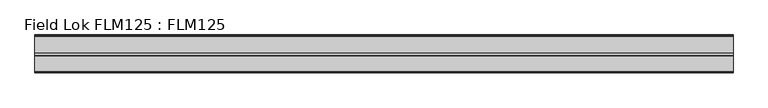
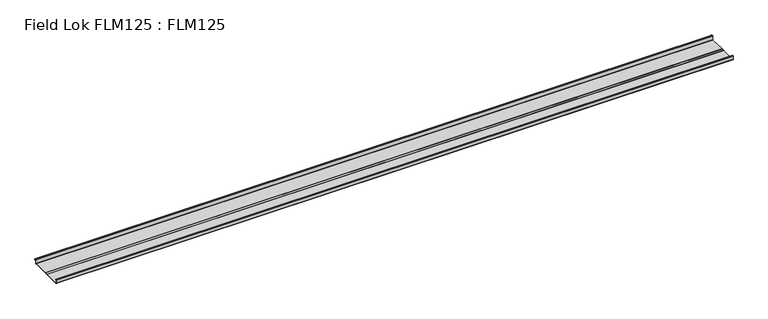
"""IFC4 building model written with IfcOpenShell, lengths in millimetres: proxy geometry, Field Lok FLM125 : FLM125."""

from ifc_helpers import new_model, si_unit, point, frame, frame_2d, origin, place, context, project, spatial, polyline, circle_curve, trimmed, segment, composite_curve, outline, extrude, source, transform, mapped, element, save


def field_lok_flm125_flm125_7b849c24(model_context):
    return source(origin(), model_context, "Body", "SweptSolid", [
        extrude(outline(composite_curve([segment(polyline([(9.0644354, 38.2966038), (9.0644354, 37.4838038), (2.7557104, 37.4838038)]), True, "CONTINUOUS"), segment(trimmed(circle_curve(frame_2d((2.7557104, 35.4772038)), 2.0066), [point((2.7557104, 37.4838038))], [point((0.7491104, 35.4772038))], True, "CARTESIAN"), True, "CONTINUOUS"), segment(polyline([(0.7491104, 35.4772038), (0.7491104, 5.7846038)]), True, "CONTINUOUS"), segment(trimmed(circle_curve(frame_2d((5.5243104, 5.7846038)), 4.7752), [point((0.7491104, 5.7846038))], [point((5.5243104, 1.0094038))], True, "CARTESIAN"), True, "CONTINUOUS"), segment(polyline([(5.5243104, 1.0094038), (146.5691576, 1.0094038), (147.6574599, 1.7714412)]), True, "CONTINUOUS"), segment(trimmed(circle_curve(frame_2d((148.4004708, 0.7103117)), 1.2954), [point((147.6574599, 1.7714412))], [point((148.4004708, 2.0057117))], False, "CARTESIAN"), True, "CONTINUOUS"), segment(polyline([(148.4004708, 2.0057117), (170.7524708, 2.0057117)]), True, "CONTINUOUS"), segment(trimmed(circle_curve(frame_2d((170.7524708, 0.7103117)), 1.2954), [point((170.7524708, 2.0057117))], [point((171.4954817, 1.7714412))], False, "CARTESIAN"), True, "CONTINUOUS"), segment(polyline([(171.4954817, 1.7714412), (172.583784, 1.0094038), (313.6286313, 1.0094038)]), True, "CONTINUOUS"), segment(trimmed(circle_curve(frame_2d((313.6286313, 4.0066038)), 2.9972), [point((313.6286313, 1.0094038))], [point((316.6240055, 3.902003))], True, "CARTESIAN"), True, "CONTINUOUS"), segment(polyline([(316.6240055, 3.902003), (317.7577902, 36.3693494)]), True, "CONTINUOUS"), segment(trimmed(circle_curve(frame_2d((320.5754727, 36.2709538)), 2.8194), [point((317.7577902, 36.3693494))], [point((320.5754727, 39.0903538))], False, "CARTESIAN"), True, "CONTINUOUS"), segment(polyline([(320.5754727, 39.0903538), (328.0352652, 39.0903538)]), True, "CONTINUOUS"), segment(trimmed(circle_curve(frame_2d((328.0352652, 36.2709538)), 2.8194), [point((328.0352652, 39.0903538))], [point((330.8546652, 36.2709538))], False, "CARTESIAN"), True, "CONTINUOUS"), segment(polyline([(330.8546652, 36.2709538), (330.8546652, 29.1684788), (330.0418652, 29.1684788), (330.0418652, 36.2709538)]), True, "CONTINUOUS"), segment(trimmed(circle_curve(frame_2d((328.0352652, 36.2709538)), 2.0066), [point((330.0418652, 36.2709538))], [point((328.0352652, 38.2775538))], True, "CARTESIAN"), True, "CONTINUOUS"), segment(polyline([(328.0352652, 38.2775538), (320.5754727, 38.2775538)]), True, "CONTINUOUS"), segment(trimmed(circle_curve(frame_2d((320.5754727, 36.2709538)), 2.0066), [point((320.5754727, 38.2775538))], [point((318.5700951, 36.3409831))], True, "CARTESIAN"), True, "CONTINUOUS"), segment(polyline([(318.5700951, 36.3409831), (317.4363104, 3.8736367)]), True, "CONTINUOUS"), segment(trimmed(circle_curve(frame_2d((313.6286313, 4.0066038)), 3.81), [point((317.4363104, 3.8736367))], [point((313.6286313, 0.1966038))], False, "CARTESIAN"), True, "CONTINUOUS"), segment(polyline([(313.6286313, 0.1966038), (172.7439558, 0.1966038)]), True, "CONTINUOUS"), segment(trimmed(circle_curve(frame_2d((172.7439558, 1.5174038)), 1.3208), [point((172.7439558, 0.1966038))], [point((171.9863761, 0.4354677))], False, "CARTESIAN"), True, "CONTINUOUS"), segment(polyline([(171.9863761, 0.4354677), (170.904634, 1.1929117), (148.2483076, 1.1929117), (147.1665656, 0.4354677)]), True, "CONTINUOUS"), segment(trimmed(circle_curve(frame_2d((146.4089858, 1.5174038)), 1.3208), [point((147.1665656, 0.4354677))], [point((146.4089858, 0.1966038))], False, "CARTESIAN"), True, "CONTINUOUS"), segment(polyline([(146.4089858, 0.1966038), (5.5243104, 0.1966038)]), True, "CONTINUOUS"), segment(trimmed(circle_curve(frame_2d((5.5243104, 5.7846038)), 5.588), [point((5.5243104, 0.1966038))], [point((-0.0636896, 5.7846038))], False, "CARTESIAN"), True, "CONTINUOUS"), segment(polyline([(-0.0636896, 5.7846038), (-0.0636896, 35.4772038)]), True, "CONTINUOUS"), segment(trimmed(circle_curve(frame_2d((2.7557104, 35.4772038)), 2.8194), [point((-0.0636896, 35.4772038))], [point((2.7557104, 38.2966038))], False, "CARTESIAN"), True, "CONTINUOUS"), segment(polyline([(2.7557104, 38.2966038), (9.0644354, 38.2966038)]), True, "CONTINUOUS")], self_intersect=False)), frame((-3333.5571834, 0.0, 0.0), z_axis=(1.0, 0.0, 0.0), x_axis=(0.0, 1.0, 0.0)), (0.0, 0.0, 1.0), 6096.0),
    ])


if __name__ == "__main__":
    model = new_model("IFC4")
    model_context = context("Model", 3, world=origin())
    ifc_project = project(units=[si_unit("LENGTHUNIT", "METRE", prefix="MILLI")], contexts=[model_context])
    site = spatial("IfcSite", under=ifc_project)
    building = spatial("IfcBuilding", under=site)
    placement = place(None, origin())
    field_lok_flm125_flm125_shape = field_lok_flm125_flm125_7b849c24(model_context)
    element("IfcBuildingElementProxy", 1, Name="Field Lok FLM125 : FLM125", ObjectType="Field Lok FLM125 : FLM125", at=placement, inside=building, context=model_context, shape_type="MappedRepresentation", body=[
        mapped(field_lok_flm125_flm125_shape, transform((0.0, 0.0, 0.0), x_axis=(1.0, 0.0, 0.0), y_axis=(0.0, 1.0, 0.0), z_axis=(0.0, 0.0, 1.0))),
    ])
    save(model, "model.ifc")
